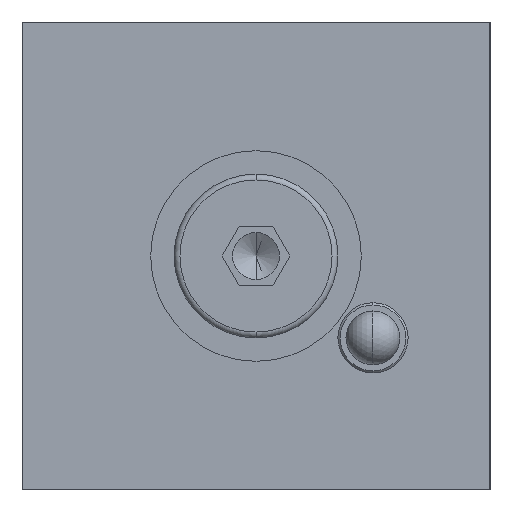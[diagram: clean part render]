
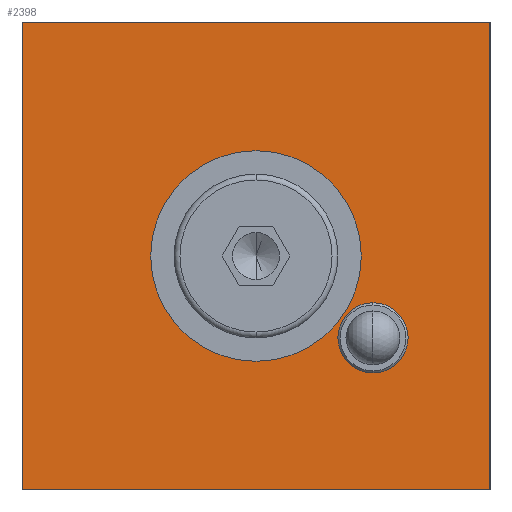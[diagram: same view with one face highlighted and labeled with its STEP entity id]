
A CAD part, left-side view. The second image highlights one B-rep face of the part: STEP entity #2398.
In plain terms, the highlighted planar face has unit normal (-1, 0, 0).
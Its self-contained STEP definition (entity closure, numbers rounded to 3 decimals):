
#37 = CARTESIAN_POINT ( 'NONE',  ( 0., -10., -7. ) ) ;
#315 = VERTEX_POINT ( 'NONE', #11105 ) ;
#349 = VECTOR ( 'NONE', #3888, 1000. ) ;
#369 = CIRCLE ( 'NONE', #484, 3. ) ;
#432 = CARTESIAN_POINT ( 'NONE',  ( 0., 20., 20. ) ) ;
#472 = ORIENTED_EDGE ( 'NONE', *, *, #3696, .F. ) ;
#484 = AXIS2_PLACEMENT_3D ( 'NONE', #37, #3996, #10542 ) ;
#564 = DIRECTION ( 'NONE',  ( 0., -1., 0. ) ) ;
#605 = EDGE_CURVE ( 'NONE', #315, #9200, #714, .T. ) ;
#714 = LINE ( 'NONE', #10256, #2366 ) ;
#941 = EDGE_CURVE ( 'NONE', #8920, #10477, #8486, .T. ) ;
#1085 = ORIENTED_EDGE ( 'NONE', *, *, #2303, .T. ) ;
#1176 = DIRECTION ( 'NONE',  ( -1., 0., 0. ) ) ;
#1180 = CARTESIAN_POINT ( 'NONE',  ( 0., -9., 0. ) ) ;
#1457 = DIRECTION ( 'NONE',  ( 0., -1., 0. ) ) ;
#2128 = FACE_OUTER_BOUND ( 'NONE', #5658, .T. ) ;
#2211 = CARTESIAN_POINT ( 'NONE',  ( 0., 9., 0. ) ) ;
#2235 = ORIENTED_EDGE ( 'NONE', *, *, #941, .T. ) ;
#2303 = EDGE_CURVE ( 'NONE', #315, #8920, #7839, .T. ) ;
#2366 = VECTOR ( 'NONE', #6870, 1000. ) ;
#2398 = ADVANCED_FACE ( 'NONE', ( #2672, #8505, #2128 ), #3668, .T. ) ;
#2672 = FACE_BOUND ( 'NONE', #4688, .T. ) ;
#2860 = CARTESIAN_POINT ( 'NONE',  ( 0., -20., 20. ) ) ;
#2862 = ORIENTED_EDGE ( 'NONE', *, *, #605, .F. ) ;
#2937 = CARTESIAN_POINT ( 'NONE',  ( 0., 0., 0. ) ) ;
#3093 = VECTOR ( 'NONE', #564, 1000. ) ;
#3144 = CARTESIAN_POINT ( 'NONE',  ( 0., 20., -20. ) ) ;
#3269 = CIRCLE ( 'NONE', #4144, 3. ) ;
#3275 = VERTEX_POINT ( 'NONE', #1180 ) ;
#3328 = EDGE_CURVE ( 'NONE', #9642, #4998, #3269, .T. ) ;
#3347 = DIRECTION ( 'NONE',  ( 0., -1., 0. ) ) ;
#3572 = CARTESIAN_POINT ( 'NONE',  ( 0., 20., 20. ) ) ;
#3668 = PLANE ( 'NONE',  #4834 ) ;
#3696 = EDGE_CURVE ( 'NONE', #10830, #3275, #5544, .T. ) ;
#3888 = DIRECTION ( 'NONE',  ( 0., -1., 0. ) ) ;
#3996 = DIRECTION ( 'NONE',  ( -1., 0., 0. ) ) ;
#4144 = AXIS2_PLACEMENT_3D ( 'NONE', #11213, #7430, #3347 ) ;
#4190 = CARTESIAN_POINT ( 'NONE',  ( 0., 20., -20. ) ) ;
#4688 = EDGE_LOOP ( 'NONE', ( #7901, #9904 ) ) ;
#4834 = AXIS2_PLACEMENT_3D ( 'NONE', #4190, #7049, #9977 ) ;
#4924 = EDGE_CURVE ( 'NONE', #9200, #10477, #7424, .T. ) ;
#4998 = VERTEX_POINT ( 'NONE', #11017 ) ;
#5139 = CARTESIAN_POINT ( 'NONE',  ( 0., -13., -7. ) ) ;
#5544 = CIRCLE ( 'NONE', #10587, 9. ) ;
#5658 = EDGE_LOOP ( 'NONE', ( #2235, #7985, #2862, #1085 ) ) ;
#5913 = VECTOR ( 'NONE', #8778, 1000. ) ;
#6487 = CARTESIAN_POINT ( 'NONE',  ( 0., -20., -20. ) ) ;
#6831 = CARTESIAN_POINT ( 'NONE',  ( 0., -20., -20. ) ) ;
#6870 = DIRECTION ( 'NONE',  ( 0., 0., 1. ) ) ;
#7049 = DIRECTION ( 'NONE',  ( -1., 0., 0. ) ) ;
#7424 = LINE ( 'NONE', #432, #3093 ) ;
#7430 = DIRECTION ( 'NONE',  ( -1., 0., 0. ) ) ;
#7514 = EDGE_LOOP ( 'NONE', ( #10079, #472 ) ) ;
#7757 = DIRECTION ( 'NONE',  ( 0., -1., 0. ) ) ;
#7839 = LINE ( 'NONE', #3144, #349 ) ;
#7901 = ORIENTED_EDGE ( 'NONE', *, *, #3328, .F. ) ;
#7985 = ORIENTED_EDGE ( 'NONE', *, *, #4924, .F. ) ;
#8012 = CIRCLE ( 'NONE', #11033, 9. ) ;
#8278 = CARTESIAN_POINT ( 'NONE',  ( 0., 0., 0. ) ) ;
#8332 = EDGE_CURVE ( 'NONE', #3275, #10830, #8012, .T. ) ;
#8456 = EDGE_CURVE ( 'NONE', #4998, #9642, #369, .T. ) ;
#8486 = LINE ( 'NONE', #6831, #5913 ) ;
#8505 = FACE_BOUND ( 'NONE', #7514, .T. ) ;
#8778 = DIRECTION ( 'NONE',  ( 0., 0., 1. ) ) ;
#8920 = VERTEX_POINT ( 'NONE', #6487 ) ;
#9200 = VERTEX_POINT ( 'NONE', #3572 ) ;
#9642 = VERTEX_POINT ( 'NONE', #5139 ) ;
#9904 = ORIENTED_EDGE ( 'NONE', *, *, #8456, .F. ) ;
#9977 = DIRECTION ( 'NONE',  ( 0., -1., 0. ) ) ;
#10079 = ORIENTED_EDGE ( 'NONE', *, *, #8332, .F. ) ;
#10256 = CARTESIAN_POINT ( 'NONE',  ( 0., 20., -20. ) ) ;
#10477 = VERTEX_POINT ( 'NONE', #2860 ) ;
#10542 = DIRECTION ( 'NONE',  ( 0., -1., 0. ) ) ;
#10587 = AXIS2_PLACEMENT_3D ( 'NONE', #2937, #10836, #7757 ) ;
#10830 = VERTEX_POINT ( 'NONE', #2211 ) ;
#10836 = DIRECTION ( 'NONE',  ( -1., 0., 0. ) ) ;
#11017 = CARTESIAN_POINT ( 'NONE',  ( 0., -7., -7. ) ) ;
#11033 = AXIS2_PLACEMENT_3D ( 'NONE', #8278, #1176, #1457 ) ;
#11105 = CARTESIAN_POINT ( 'NONE',  ( 0., 20., -20. ) ) ;
#11213 = CARTESIAN_POINT ( 'NONE',  ( 0., -10., -7. ) ) ;
